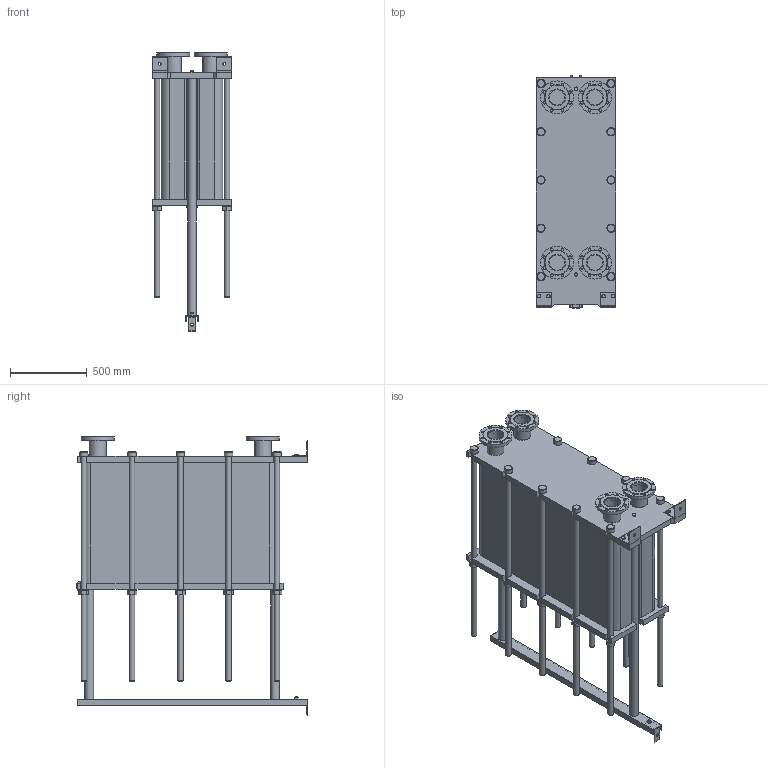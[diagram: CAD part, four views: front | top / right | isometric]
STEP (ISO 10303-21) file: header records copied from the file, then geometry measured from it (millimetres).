
FILE_DESCRIPTION(/* description */ (''),/* implementation_level */ '2;1');
FILE_NAME(/* name */ 'C:\Users\zhuro\Desktop\ENCO\TO\ЭН-04\ЭН-0,5-04-228-1.stp',/* time_stamp */ '2022-06-06T11:05:33+03:00',/* author */ ('zhuro'),/* organization */ (''),/* preprocessor_version */ 'ST-DEVELOPER v18.1',/* originating_system */ 'Autodesk Inventor 2022',/* authorisation */ '');
FILE_SCHEMA (('AUTOMOTIVE_DESIGN { 1 0 10303 214 3 1 1 }'));
Length unit declared in the file: millimetre
Products named in the file (1): ЭН-0,5-04-228-1
Bounding box: 520 x 1510 x 1819 mm (x, y, z)
Volume: 471204415.9 mm3; surface area: 11169994.1 mm2
Topology: 45 solids, 45 shells, 668 faces, 1611 edges, 1048 vertices
Faces by surface type: plane 457, cylinder 166, cone 39, torus 6
Full cylindrical faces by diameter (mm): 8 x4, 10 x2, 16 x8, 18 x35, 36 x25, 40 x2, 42 x1, 45 x4, 54 x10, 57 x2, 60 x10, 68 x2, 100 x4, 110 x8, 215 x4
Entity records: 23607 total; most frequent: CARTESIAN_POINT 7348, DIRECTION 3371, ORIENTED_EDGE 3142, EDGE_CURVE 1571, AXIS2_PLACEMENT_3D 1199, VERTEX_POINT 1044, LINE 973, VECTOR 973
